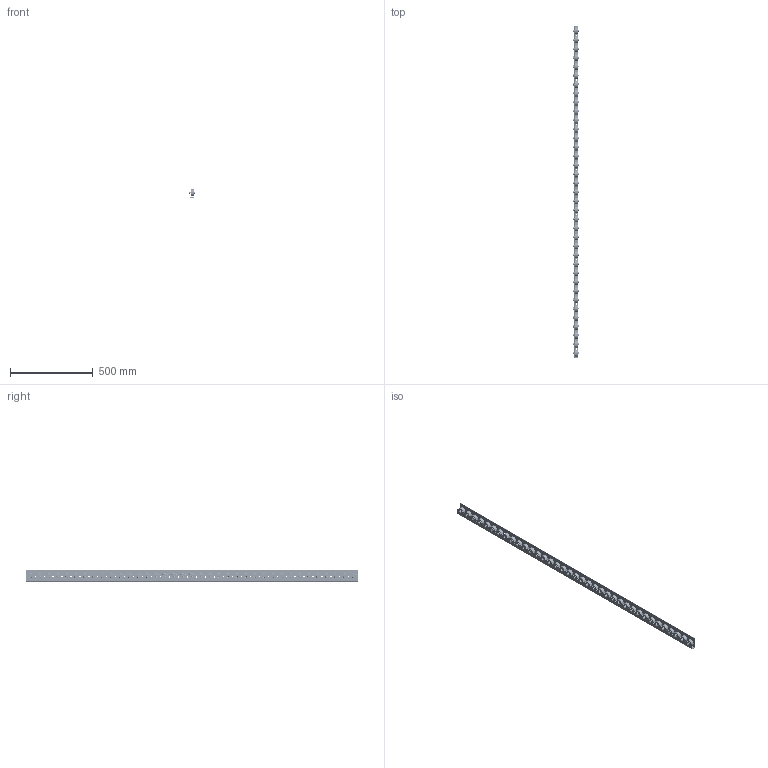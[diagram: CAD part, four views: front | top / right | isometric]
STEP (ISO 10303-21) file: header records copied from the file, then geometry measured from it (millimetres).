
FILE_DESCRIPTION( ( 'Unknown' ), '1' );
FILE_NAME( 'D:/Construktor/Listwy rolkowe 2015/Listwa T610L/Listwa T610L.stp', 'Unknown', ( 'Unknown' ), ( 'Unknown' ), 'PSStep 17.0.49', 'Unknown', ' ' );
FILE_SCHEMA( ( 'AUTOMOTIVE_DESIGN { 1 0 10303 214 1 1 1 1 }' ) );
Length unit declared in the file: millimetre
Products named in the file (11): Rolka T 610; Wewnetrzna Rolka 610; Zewnetrzna Rolka 610; Assem1; Ceownik T610L; DIN_931_M8x35; DIN_931_M8x35-oa0; DIN_931_M8x35-oa1; Nut_DIN_980_M_M8_v10.50; Nut_DIN_980_M_M8_v10.50-oa2; Nut_DIN_980_M_M8_v10.50-oa3
Assembly tree (114 placements, depth 3):
  Assem1
    Ceownik T610L
    DIN_931_M8x35  x35
    DIN_931_M8x35-oa0
    DIN_931_M8x35-oa1
    Nut_DIN_980_M_M8_v10.50  x35
    Nut_DIN_980_M_M8_v10.50-oa2
    Nut_DIN_980_M_M8_v10.50-oa3
    Rolka T 610  x37
      Wewnetrzna Rolka 610
      Zewnetrzna Rolka 610
Bounding box: 40.3 x 2000 x 70 mm (x, y, z)
Volume: 1385880.4 mm3; surface area: 975671.7 mm2
Topology: 149 solids, 149 shells, 3757 faces, 9090 edges, 5927 vertices
Faces by surface type: plane 2230, cylinder 750, cone 555, torus 222
Full cylindrical faces by diameter (mm): 6.466 x37, 6.647 x37, 6.697 x37, 8 x74, 8.2 x154, 8.3 x37, 8.4 x37, 11.63 x37, 12.5 x37, 14 x74, 23 x74, 28 x74, 42.3 x37
Entity records: 15126 total; most frequent: CARTESIAN_POINT 2483, DIRECTION 2032, ORIENTED_EDGE 1436, AXIS2_PLACEMENT_3D 943, EDGE_LOOP 910, EDGE_CURVE 718, VERTEX_POINT 602, FACE_OUTER_BOUND 563
